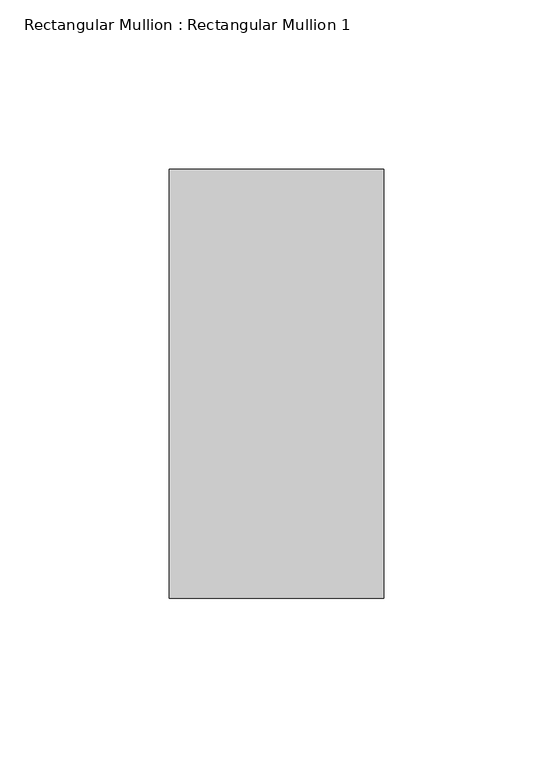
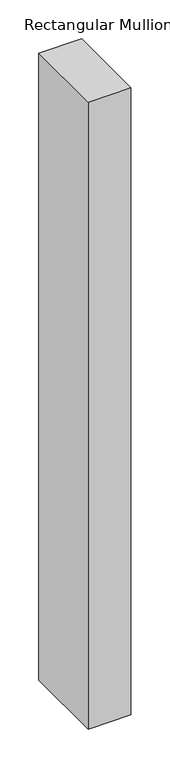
"""IFC4 building model written with IfcOpenShell, lengths in millimetres: member geometry, Rectangular Mullion : Rectangular Mullion 1."""

from ifc_helpers import new_model, si_unit, frame, origin, place, context, project, spatial, polyline, outline, extrude, source, transform, mapped, element, save


def rectangular_mullion_rectangular_mullion_1_a5e39d68(model_context):
    return source(origin(), model_context, "Body", "SweptSolid", [
        extrude(outline(polyline([(0.0, 63.5), (0.0, -63.5), (-63.5, -63.5), (-63.5, 63.5), (0.0, 63.5)])), frame((0.0, 0.0, -985.1571426), z_axis=(0.0, 0.0, 1.0), x_axis=(1.0, 0.0, 0.0)), (0.0, 0.0, 1.0), 985.1571426),
    ])


if __name__ == "__main__":
    model = new_model("IFC4")
    model_context = context("Model", 3, world=origin())
    ifc_project = project(units=[si_unit("LENGTHUNIT", "METRE", prefix="MILLI")], contexts=[model_context])
    site = spatial("IfcSite", under=ifc_project)
    building = spatial("IfcBuilding", under=site)
    placement = place(None, origin())
    rectangular_mullion_rectangular_mullion_1_shape = rectangular_mullion_rectangular_mullion_1_a5e39d68(model_context)
    element("IfcMember", 1, ObjectType="Rectangular Mullion : Rectangular Mullion 1", at=placement, inside=building, context=model_context, shape_type="MappedRepresentation", body=[
        mapped(rectangular_mullion_rectangular_mullion_1_shape, transform((0.0, 0.0, 0.0), x_axis=(1.0, 0.0, 0.0), y_axis=(0.0, 1.0, 0.0), z_axis=(0.0, 0.0, 1.0))),
    ])
    save(model, "model.ifc")
